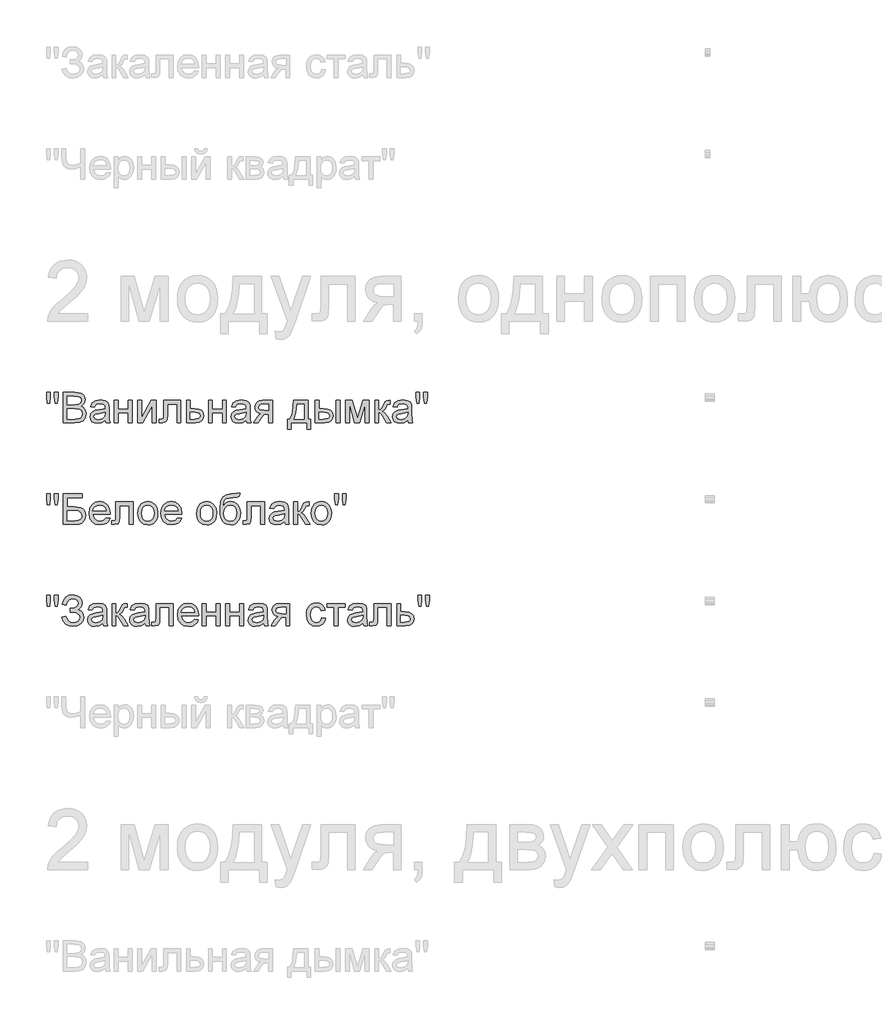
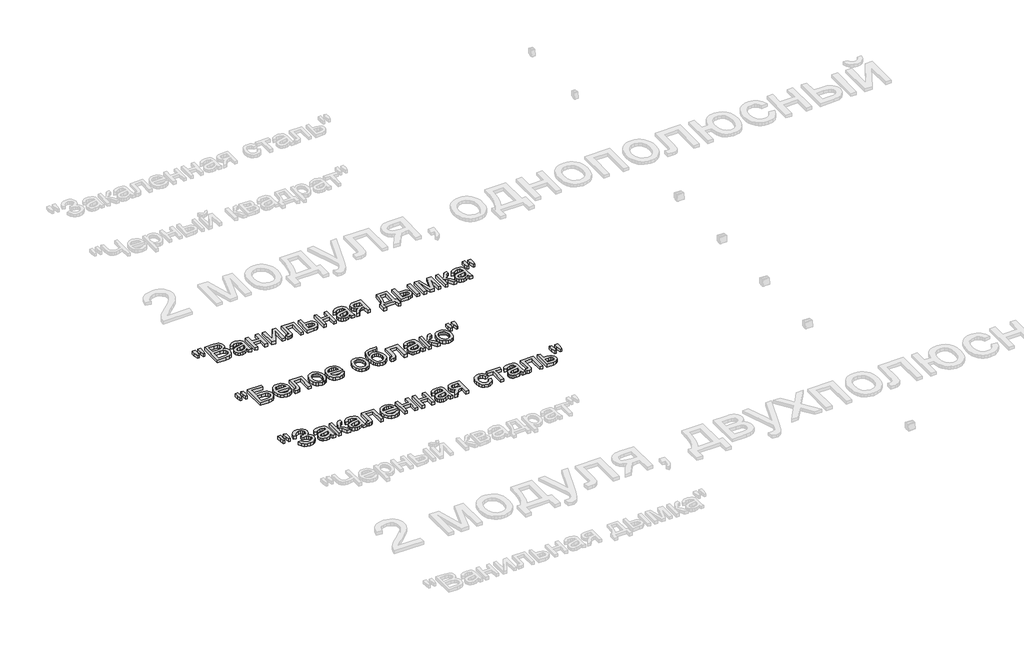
# One storey, part 17 of 168: 3 proxies.
"""IFC4 building model written with IfcOpenShell, lengths in millimetres."""

from ifc_helpers import new_model, si_unit, origin, origin_with_axes, place, context, project, spatial, polyline, outline, extrude, element, save

model = new_model("IFC4")

# Units and contexts
model_context = context("Model", 3, world=origin())
ifc_project = project(units=[si_unit("LENGTHUNIT", "METRE", prefix="MILLI")], contexts=[model_context])

# Site, building, storey
site = spatial("IfcSite", under=ifc_project)
building = spatial("IfcBuilding", under=site)
storey = spatial("IfcBuildingStorey", under=building, Name="Этаж 01", Elevation=0.0)

# Proxies
placement = place(None, origin())
element("IfcBuildingElementProxy", 1, Name="150", ObjectType="150", at=placement, inside=storey, context=model_context, shape_type="SweptSolid", body=[
    extrude(outline(polyline([(41980.1485789, -49764.0640488), (41975.550054, -49734.9645829), (41975.550054, -49709.9118191), (41994.3856121, -49709.9118191), (41994.3856121, -49734.9645829), (41990.2653338, -49764.0640488), (41980.1485789, -49764.0640488)])), origin_with_axes(), (0.0, 0.0, 1.0), 20.0),
    extrude(outline(polyline([(42017.7093306, -49764.0640488), (42013.2211703, -49734.9645829), (42013.2211703, -49709.9118191), (42032.0567284, -49709.9118191), (42032.0567284, -49734.9645829), (42027.6421445, -49764.0640488), (42017.7093306, -49764.0640488)])), origin_with_axes(), (0.0, 0.0, 1.0), 20.0),
    extrude(outline(polyline([(42057.9556209, -49860.5962843), (42057.9556209, -49709.9118191), (42115.4555767, -49709.9118191), (42143.6169435, -49714.3447971), (42153.0807078, -49719.9687931), (42160.2452096, -49727.974825), (42166.2600803, -49747.2518416), (42161.2017028, -49764.8549951), (42145.9162059, -49778.1907174), (42156.5893823, -49783.7641296), (42164.4758526, -49792.2438096), (42169.3456905, -49803.0687373), (42170.9689698, -49815.6778927), (42166.5359918, -49835.9297965), (42155.5547142, -49850.3507707), (42139.1655713, -49858.0027162), (42115.0141183, -49860.5962843), (42057.9556209, -49860.5962843)]), holes=[polyline([(42076.791179, -49771.1273831), (42111.1881456, -49771.1273831), (42131.2745025, -49769.5087023), (42143.3594261, -49762.5373385), (42147.4245221, -49750.2684739), (42143.6353376, -49737.9812153), (42132.7828187, -49730.7155459), (42108.5761834, -49728.7473772), (42076.791179, -49728.7473772), (42076.791179, -49771.1273831)]), polyline([(42076.791179, -49841.7607261), (42115.4187885, -49841.7607261), (42129.3983043, -49841.0249622), (42141.2257105, -49836.9230779), (42149.061597, -49828.5537625), (42152.1334117, -49815.8618337), (42148.5281681, -49801.2201303), (42136.8479148, -49792.4829329), (42113.5793786, -49789.9629412), (42076.791179, -49789.9629412), (42076.791179, -49841.7607261)])]), origin_with_axes(), (0.0, 0.0, 1.0), 20.0),
    extrude(outline(polyline([(42265.1467606, -49846.4696157), (42246.8814195, -49859.2351209), (42226.7030921, -49862.9507291), (42210.9623412, -49860.7158459), (42199.3510657, -49854.0111966), (42192.1911624, -49843.8300624), (42189.804528, -49831.1657247), (42193.4097715, -49816.2665039), (42202.8827329, -49805.4507732), (42216.0713024, -49799.2703557), (42232.3684748, -49796.4376643), (42265.036396, -49789.9629412), (42265.1467606, -49785.7690865), (42263.8499765, -49777.3629829), (42259.9596244, -49771.8631471), (42251.2592153, -49767.7796569), (42239.1375035, -49766.4184935), (42220.0812162, -49770.0421312), (42210.9945309, -49782.8996069), (42192.1589727, -49780.5451621), (42200.3075589, -49762.1510624), (42216.7150959, -49751.3721199), (42241.5655247, -49747.5829354), (42264.3926025, -49750.9306615), (42277.2868664, -49759.3367651), (42283.0626137, -49772.1206645), (42283.9823187, -49788.6017778), (42283.9823187, -49812.0358609), (42284.9388119, -49844.7589644), (42288.6912083, -49860.5962843), (42269.8556501, -49860.5962843), (42265.1467606, -49846.4696157)]), holes=[polyline([(42265.1467606, -49808.7984994), (42234.7597078, -49814.5742467), (42218.5545059, -49817.6276673), (42211.2152601, -49822.5940742), (42208.6400861, -49829.8413495), (42214.2502865, -49840.0316808), (42230.7130058, -49844.1151709), (42249.7692932, -49839.6086165), (42262.0565518, -49828.7009153), (42265.036396, -49814.1327883), (42265.1467606, -49808.7984994)])]), origin_with_axes(), (0.0, 0.0, 1.0), 20.0),
    extrude(outline(polyline([(42309.8812112, -49749.9373802), (42328.7167693, -49749.9373802), (42328.7167693, -49792.317386), (42378.1601095, -49792.317386), (42378.1601095, -49749.9373802), (42396.9956676, -49749.9373802), (42396.9956676, -49860.5962843), (42378.1601095, -49860.5962843), (42378.1601095, -49811.1529441), (42328.7167693, -49811.1529441), (42328.7167693, -49860.5962843), (42309.8812112, -49860.5962843), (42309.8812112, -49749.9373802)])), origin_with_axes(), (0.0, 0.0, 1.0), 20.0),
    extrude(outline(polyline([(42425.2490049, -49749.9373802), (42444.084563, -49749.9373802), (42444.084563, -49834.3295098), (42490.364118, -49749.9373802), (42514.7179061, -49749.9373802), (42514.7179061, -49860.5962843), (42495.8823479, -49860.5962843), (42495.8823479, -49776.7191894), (42449.8970985, -49860.5962843), (42425.2490049, -49860.5962843), (42425.2490049, -49749.9373802)])), origin_with_axes(), (0.0, 0.0, 1.0), 20.0),
    extrude(outline(polyline([(42552.3890224, -49749.9373802), (42637.1490341, -49749.9373802), (42637.1490341, -49860.4859197), (42618.3134759, -49860.4859197), (42618.3134759, -49768.7729383), (42571.2245806, -49768.7729383), (42571.2245806, -49821.5640046), (42569.9553877, -49845.9177927), (42562.9840239, -49856.2000945), (42546.5029105, -49860.5962843), (42531.1990195, -49859.6397911), (42531.1990195, -49841.7607261), (42539.6235172, -49841.7607261), (42548.1399854, -49840.6018979), (42551.5428938, -49836.9230779), (42552.3890224, -49820.4971468), (42552.3890224, -49749.9373802)])), origin_with_axes(), (0.0, 0.0, 1.0), 20.0),
    extrude(outline(polyline([(42665.4023713, -49749.9373802), (42684.2379295, -49749.9373802), (42684.2379295, -49789.9629412), (42705.9429672, -49789.9629412), (42724.7601312, -49792.3219845), (42738.6844648, -49799.3991144), (42747.2929034, -49810.6241138), (42750.162383, -49825.4267656), (42747.7205663, -49838.9050422), (42740.395116, -49850.2771943), (42727.6985887, -49858.0165118), (42709.1435405, -49860.5962843), (42665.4023713, -49860.5962843), (42665.4023713, -49749.9373802)]), holes=[polyline([(42684.2379295, -49841.7607261), (42701.8226888, -49841.7607261), (42724.539402, -49837.8059947), (42729.6299692, -49832.7430187), (42731.3268249, -49825.4635538), (42726.3052356, -49813.8752709), (42718.2348244, -49810.0676923), (42704.066769, -49808.7984994), (42684.2379295, -49808.7984994), (42684.2379295, -49841.7607261)])]), origin_with_axes(), (0.0, 0.0, 1.0), 20.0),
    extrude(outline(polyline([(42773.7068307, -49749.9373802), (42792.5423889, -49749.9373802), (42792.5423889, -49792.317386), (42841.985729, -49792.317386), (42841.985729, -49749.9373802), (42860.8212872, -49749.9373802), (42860.8212872, -49860.5962843), (42841.985729, -49860.5962843), (42841.985729, -49811.1529441), (42792.5423889, -49811.1529441), (42792.5423889, -49860.5962843), (42773.7068307, -49860.5962843), (42773.7068307, -49749.9373802)])), origin_with_axes(), (0.0, 0.0, 1.0), 20.0),
    extrude(outline(polyline([(42959.7079675, -49846.4696157), (42941.4426264, -49859.2351209), (42921.264299, -49862.9507291), (42905.5235481, -49860.7158459), (42893.9122726, -49854.0111966), (42886.7523693, -49843.8300624), (42884.3657349, -49831.1657247), (42887.9709784, -49816.2665039), (42897.4439398, -49805.4507732), (42910.6325093, -49799.2703557), (42926.9296817, -49796.4376643), (42959.5976029, -49789.9629412), (42959.7079675, -49785.7690865), (42958.4111834, -49777.3629829), (42954.5208313, -49771.8631471), (42945.8204221, -49767.7796569), (42933.6987104, -49766.4184935), (42914.6424231, -49770.0421312), (42905.5557378, -49782.8996069), (42886.7201796, -49780.5451621), (42894.8687658, -49762.1510624), (42911.2763028, -49751.3721199), (42936.1267316, -49747.5829354), (42958.9538094, -49750.9306615), (42971.8480733, -49759.3367651), (42977.6238206, -49772.1206645), (42978.5435256, -49788.6017778), (42978.5435256, -49812.0358609), (42979.5000188, -49844.7589644), (42983.2524152, -49860.5962843), (42964.416857, -49860.5962843), (42959.7079675, -49846.4696157)]), holes=[polyline([(42959.7079675, -49808.7984994), (42929.3209147, -49814.5742467), (42913.1157128, -49817.6276673), (42905.776467, -49822.5940742), (42903.201293, -49829.8413495), (42908.8114934, -49840.0316808), (42925.2742127, -49844.1151709), (42944.3305001, -49839.6086165), (42956.6177587, -49828.7009153), (42959.5976029, -49814.1327883), (42959.7079675, -49808.7984994)])]), origin_with_axes(), (0.0, 0.0, 1.0), 20.0),
    extrude(outline(polyline([(43089.2024298, -49749.9373802), (43089.2024298, -49860.5962843), (43070.3668716, -49860.5962843), (43070.3668716, -49818.2162785), (43060.1029639, -49818.2162785), (43046.1234481, -49820.6075114), (43032.9900609, -49836.6839546), (43017.9804755, -49860.5962843), (42996.2018614, -49860.5962843), (43015.1109959, -49830.3563843), (43023.4619172, -49819.5038654), (43031.1506509, -49814.6846113), (43018.2747811, -49810.7390769), (43009.224884, -49803.2434813), (43003.872201, -49793.2738792), (43002.0879733, -49781.9063255), (43004.5251915, -49769.0120616), (43011.8368462, -49758.8033362), (43023.7654199, -49752.1538692), (43040.0533952, -49749.9373802), (43089.2024298, -49749.9373802)]), holes=[polyline([(43070.3668716, -49768.7729383), (43045.5348369, -49768.7729383), (43032.7095509, -49769.8627887), (43025.4300859, -49773.1323399), (43020.9235315, -49783.3410653), (43022.583599, -49790.5193627), (43027.5638015, -49795.4995653), (43051.0898551, -49799.3807203), (43070.3668716, -49799.3807203), (43070.3668716, -49768.7729383)])]), origin_with_axes(), (0.0, 0.0, 1.0), 20.0),
    extrude(outline(polyline([(43192.7979996, -49749.9373802), (43263.4313427, -49749.9373802), (43263.4313427, -49841.7607261), (43277.5580113, -49841.7607261), (43277.5580113, -49891.2040663), (43258.7224531, -49891.2040663), (43258.7224531, -49860.5962843), (43181.0257758, -49860.5962843), (43181.0257758, -49891.2040663), (43162.1902176, -49891.2040663), (43162.1902176, -49841.7607261), (43173.9624415, -49841.7607261), (43182.5202964, -49826.2958868), (43188.5121744, -49805.8370493), (43192.7979996, -49749.9373802)]), holes=[polyline([(43209.279113, -49768.7729383), (43204.864529, -49811.686373), (43195.1524444, -49841.7607261), (43244.5957845, -49841.7607261), (43244.5957845, -49768.7729383), (43209.279113, -49768.7729383)])]), origin_with_axes(), (0.0, 0.0, 1.0), 20.0),
    extrude(outline(polyline([(43402.3435841, -49749.9373802), (43421.1791422, -49749.9373802), (43421.1791422, -49860.5962843), (43402.3435841, -49860.5962843), (43402.3435841, -49749.9373802)])), origin_with_axes(), (0.0, 0.0, 1.0), 20.0),
    extrude(outline(polyline([(43298.7480142, -49749.9373802), (43317.5835724, -49749.9373802), (43317.5835724, -49789.9629412), (43340.8705027, -49789.9629412), (43360.9982463, -49792.3219845), (43375.9112627, -49799.3991144), (43385.1405023, -49810.6241138), (43388.2169154, -49825.4267656), (43385.637143, -49838.9050422), (43377.8978255, -49850.2771943), (43364.4931253, -49858.0165118), (43344.9172046, -49860.5962843), (43298.7480142, -49860.5962843), (43298.7480142, -49749.9373802)]), holes=[polyline([(43317.5835724, -49841.7607261), (43336.9341653, -49841.7607261), (43361.9133528, -49837.8059947), (43367.5143562, -49832.7430187), (43369.3813573, -49825.4635538), (43363.8447333, -49813.8752709), (43354.9649816, -49810.0676923), (43339.3989747, -49808.7984994), (43317.5835724, -49808.7984994), (43317.5835724, -49841.7607261)])]), origin_with_axes(), (0.0, 0.0, 1.0), 20.0),
    extrude(outline(polyline([(43449.4324794, -49749.9373802), (43481.8428832, -49749.9373802), (43506.8220707, -49838.5233646), (43533.7510327, -49749.9373802), (43564.8002731, -49749.9373802), (43564.8002731, -49860.5962843), (43545.964715, -49860.5962843), (43545.964715, -49771.4952651), (43518.8886001, -49860.5962843), (43494.1669301, -49860.5962843), (43468.2680376, -49767.2278339), (43468.2680376, -49860.5962843), (43449.4324794, -49860.5962843), (43449.4324794, -49749.9373802)])), origin_with_axes(), (0.0, 0.0, 1.0), 20.0),
    extrude(outline(polyline([(43593.0536104, -49749.9373802), (43611.8891685, -49749.9373802), (43611.8891685, -49797.0262755), (43624.5075209, -49793.6417612), (43634.845005, -49773.9232862), (43643.4350496, -49756.908744), (43651.0134187, -49751.3721199), (43664.7905994, -49749.9373802), (43668.395843, -49749.9373802), (43668.395843, -49768.8833029), (43663.3190714, -49768.7729383), (43654.1220216, -49770.7595011), (43647.6472984, -49783.1571243), (43640.0505352, -49796.566423), (43629.4003515, -49803.1331167), (43641.2829399, -49810.4631654), (43652.9447992, -49825.9050122), (43673.1047325, -49860.5962843), (43651.6940004, -49860.5962843), (43631.9387372, -49826.6407761), (43622.0059234, -49812.2749842), (43611.8891685, -49808.7984994), (43611.8891685, -49860.5962843), (43593.0536104, -49860.5962843), (43593.0536104, -49749.9373802)])), origin_with_axes(), (0.0, 0.0, 1.0), 20.0),
    extrude(outline(polyline([(43755.5102994, -49846.4696157), (43737.2449584, -49859.2351209), (43717.0666309, -49862.9507291), (43701.3258801, -49860.7158459), (43689.7146046, -49854.0111966), (43682.5547013, -49843.8300624), (43680.1680668, -49831.1657247), (43683.7733104, -49816.2665039), (43693.2462717, -49805.4507732), (43706.4348413, -49799.2703557), (43722.7320137, -49796.4376643), (43755.3999348, -49789.9629412), (43755.5102994, -49785.7690865), (43754.2135154, -49777.3629829), (43750.3231633, -49771.8631471), (43741.6227541, -49767.7796569), (43729.5010424, -49766.4184935), (43710.444755, -49770.0421312), (43701.3580697, -49782.8996069), (43682.5225116, -49780.5451621), (43690.6710978, -49762.1510624), (43707.0786348, -49751.3721199), (43731.9290635, -49747.5829354), (43754.7561413, -49750.9306615), (43767.6504053, -49759.3367651), (43773.4261526, -49772.1206645), (43774.3458576, -49788.6017778), (43774.3458576, -49812.0358609), (43775.3023508, -49844.7589644), (43779.0547471, -49860.5962843), (43760.219189, -49860.5962843), (43755.5102994, -49846.4696157)]), holes=[polyline([(43755.5102994, -49808.7984994), (43725.1232466, -49814.5742467), (43708.9180447, -49817.6276673), (43701.5787989, -49822.5940742), (43699.003625, -49829.8413495), (43704.6138254, -49840.0316808), (43721.0765447, -49844.1151709), (43740.132832, -49839.6086165), (43752.4200907, -49828.7009153), (43755.3999348, -49814.1327883), (43755.5102994, -49808.7984994)])]), origin_with_axes(), (0.0, 0.0, 1.0), 20.0),
    extrude(outline(polyline([(43800.1343854, -49764.0640488), (43795.5358605, -49734.9645829), (43795.5358605, -49709.9118191), (43814.3714187, -49709.9118191), (43814.3714187, -49734.9645829), (43810.2511403, -49764.0640488), (43800.1343854, -49764.0640488)])), origin_with_axes(), (0.0, 0.0, 1.0), 20.0),
    extrude(outline(polyline([(43837.6951372, -49764.0640488), (43833.2069768, -49734.9645829), (43833.2069768, -49709.9118191), (43852.042535, -49709.9118191), (43852.042535, -49734.9645829), (43847.627951, -49764.0640488), (43837.6951372, -49764.0640488)])), origin_with_axes(), (0.0, 0.0, 1.0), 20.0),
])
element("IfcBuildingElementProxy", 2, Name="150", ObjectType="150", at=placement, inside=storey, context=model_context, shape_type="SweptSolid", body=[
    extrude(outline(polyline([(41980.1485789, -50264.0640488), (41975.550054, -50234.9645829), (41975.550054, -50209.9118191), (41994.3856121, -50209.9118191), (41994.3856121, -50234.9645829), (41990.2653338, -50264.0640488), (41980.1485789, -50264.0640488)])), origin_with_axes(), (0.0, 0.0, 1.0), 20.0),
    extrude(outline(polyline([(42017.7093306, -50264.0640488), (42013.2211703, -50234.9645829), (42013.2211703, -50209.9118191), (42032.0567284, -50209.9118191), (42032.0567284, -50234.9645829), (42027.6421445, -50264.0640488), (42017.7093306, -50264.0640488)])), origin_with_axes(), (0.0, 0.0, 1.0), 20.0),
    extrude(outline(polyline([(42057.9556209, -50209.9118191), (42152.1334117, -50209.9118191), (42152.1334117, -50228.7473772), (42076.791179, -50228.7473772), (42076.791179, -50273.4818278), (42112.0710624, -50273.4818278), (42143.157091, -50277.3078006), (42153.5589544, -50282.8352276), (42161.6615553, -50291.765563), (42166.8762826, -50303.2618754), (42168.614525, -50316.4872331), (42163.6665122, -50337.9531475), (42148.8960501, -50354.268714), (42135.6247071, -50359.0143917), (42115.4555767, -50360.5962843), (42057.9556209, -50360.5962843), (42057.9556209, -50209.9118191)]), holes=[polyline([(42076.791179, -50341.7607261), (42117.1478339, -50341.7607261), (42131.4124583, -50340.2064247), (42141.6119866, -50335.5435204), (42147.7372218, -50327.7720133), (42149.7789669, -50316.8919033), (42145.1068655, -50302.1398353), (42132.102237, -50294.2671606), (42103.7201411, -50292.317386), (42076.791179, -50292.317386), (42076.791179, -50341.7607261)])]), origin_with_axes(), (0.0, 0.0, 1.0), 20.0),
    extrude(outline(polyline([(42269.6349209, -50327.6340575), (42288.1025971, -50329.9885023), (42281.4485315, -50343.9036388), (42270.8305374, -50354.3055022), (42256.4877381, -50360.7894223), (42238.6592569, -50362.9507291), (42216.5587461, -50359.2213253), (42199.5534008, -50348.0331142), (42188.710079, -50330.1126625), (42185.0956384, -50306.1865372), (42188.7468672, -50281.4556701), (42199.7005536, -50262.9604028), (42216.4759726, -50251.4273022), (42237.5923991, -50247.5829354), (42258.0512366, -50251.4181052), (42274.3989927, -50262.9236146), (42285.1181544, -50281.3820937), (42288.6912083, -50306.0761726), (42288.5808437, -50311.1529441), (42203.9311966, -50311.1529441), (42207.1915508, -50325.2520216), (42214.7653213, -50335.6170968), (42225.6960151, -50341.9906524), (42239.0271389, -50344.1151709), (42257.4948151, -50340.1788336), (42269.6349209, -50327.6340575)]), holes=[polyline([(42203.9311966, -50292.317386), (42269.8556501, -50292.317386), (42267.3080673, -50282.366178), (42262.3140692, -50275.2476614), (42251.3327917, -50268.6257855), (42237.5188227, -50266.4184935), (42224.8222954, -50268.1797286), (42214.3238629, -50273.4634337), (42207.0260039, -50281.6993919), (42203.9311966, -50292.317386)])]), origin_with_axes(), (0.0, 0.0, 1.0), 20.0),
    extrude(outline(polyline([(42316.9445455, -50249.9373802), (42401.7045572, -50249.9373802), (42401.7045572, -50360.4859197), (42382.868999, -50360.4859197), (42382.868999, -50268.7729383), (42335.7801036, -50268.7729383), (42335.7801036, -50321.5640046), (42334.5109108, -50345.9177927), (42327.539547, -50356.2000945), (42311.0584336, -50360.5962843), (42295.7545426, -50359.6397911), (42295.7545426, -50341.7607261), (42304.1790403, -50341.7607261), (42312.6955084, -50340.6018979), (42316.0984169, -50336.9230779), (42316.9445455, -50320.4971468), (42316.9445455, -50249.9373802)])), origin_with_axes(), (0.0, 0.0, 1.0), 20.0),
    extrude(outline(polyline([(42425.2490049, -50305.2668322), (42429.323298, -50278.5861905), (42441.5461773, -50259.8334058), (42456.6477332, -50250.645553), (42474.7291332, -50247.5829354), (42494.516586, -50251.3123391), (42510.3217163, -50262.5005503), (42520.6821929, -50280.2646521), (42524.1356852, -50303.7217278), (42522.6089749, -50322.750424), (42518.0288441, -50337.2357776), (42510.5286499, -50348.0836979), (42500.2417496, -50356.2000945), (42488.0234688, -50361.2630704), (42474.7291332, -50362.9507291), (42454.7025571, -50359.2351209), (42438.915821, -50348.0882965), (42428.6657089, -50329.9517141), (42425.2490049, -50305.2668322)]), holes=[polyline([(42444.084563, -50305.230044), (42446.2642638, -50322.276776), (42452.8033663, -50334.4214803), (42462.6442097, -50341.6917483), (42474.7291332, -50344.1151709), (42486.7588745, -50341.6779527), (42496.5813237, -50334.366298), (42503.1204262, -50322.0606453), (42505.300127, -50304.6414328), (42503.1066306, -50288.0913416), (42496.5261414, -50276.1121841), (42486.6898966, -50268.8419162), (42474.7291332, -50266.4184935), (42462.6442097, -50268.8327191), (42452.8033663, -50276.0753959), (42446.2642638, -50288.1925091), (42444.084563, -50305.230044)])]), origin_with_axes(), (0.0, 0.0, 1.0), 20.0),
    extrude(outline(polyline([(42622.8016363, -50327.6340575), (42641.2693124, -50329.9885023), (42634.6152469, -50343.9036388), (42623.9972528, -50354.3055022), (42609.6544535, -50360.7894223), (42591.8259723, -50362.9507291), (42569.7254614, -50359.2213253), (42552.7201162, -50348.0331142), (42541.8767944, -50330.1126625), (42538.2623538, -50306.1865372), (42541.9135826, -50281.4556701), (42552.867269, -50262.9604028), (42569.642688, -50251.4273022), (42590.7591145, -50247.5829354), (42611.217952, -50251.4181052), (42627.5657081, -50262.9236146), (42638.2848698, -50281.3820937), (42641.8579236, -50306.0761726), (42641.747559, -50311.1529441), (42557.0979119, -50311.1529441), (42560.3582661, -50325.2520216), (42567.9320367, -50335.6170968), (42578.8627305, -50341.9906524), (42592.1938543, -50344.1151709), (42610.6615304, -50340.1788336), (42622.8016363, -50327.6340575)]), holes=[polyline([(42557.0979119, -50292.317386), (42623.0223655, -50292.317386), (42620.4747827, -50282.366178), (42615.4807846, -50275.2476614), (42604.499507, -50268.6257855), (42590.6855381, -50266.4184935), (42577.9890107, -50268.1797286), (42567.4905783, -50273.4634337), (42560.1927192, -50281.6993919), (42557.0979119, -50292.317386)])]), origin_with_axes(), (0.0, 0.0, 1.0), 20.0),
    extrude(outline(polyline([(42714.8457115, -50305.2668322), (42718.9200046, -50278.5861905), (42731.1428839, -50259.8334058), (42746.2444398, -50250.645553), (42764.3258398, -50247.5829354), (42784.1132926, -50251.3123391), (42799.9184229, -50262.5005503), (42810.2788995, -50280.2646521), (42813.7323918, -50303.7217278), (42812.2056815, -50322.750424), (42807.6255507, -50337.2357776), (42800.1253565, -50348.0836979), (42789.8384562, -50356.2000945), (42777.6201754, -50361.2630704), (42764.3258398, -50362.9507291), (42744.2992637, -50359.2351209), (42728.5125276, -50348.0882965), (42718.2624155, -50329.9517141), (42714.8457115, -50305.2668322)]), holes=[polyline([(42733.6812696, -50305.230044), (42735.8609704, -50322.276776), (42742.4000729, -50334.4214803), (42752.2409163, -50341.6917483), (42764.3258398, -50344.1151709), (42776.3555811, -50341.6779527), (42786.1780303, -50334.366298), (42792.7171328, -50322.0606453), (42794.8968336, -50304.6414328), (42792.7033372, -50288.0913416), (42786.122848, -50276.1121841), (42776.2866032, -50268.8419162), (42764.3258398, -50266.4184935), (42752.2409163, -50268.8327191), (42742.4000729, -50276.0753959), (42735.8609704, -50288.1925091), (42733.6812696, -50305.230044)])]), origin_with_axes(), (0.0, 0.0, 1.0), 20.0),
    extrude(outline(polyline([(42912.6190721, -50207.5573743), (42929.1001855, -50207.5573743), (42924.2441431, -50222.25426), (42914.6424231, -50227.5701548), (42891.576222, -50228.7473772), (42860.5085875, -50233.0883848), (42853.3808738, -50238.7353734), (42848.5892108, -50246.9943242), (42844.560903, -50271.6056297), (42860.8764695, -50253.5794119), (42870.7954878, -50249.0820545), (42881.9009255, -50247.5829354), (42901.4998388, -50251.3951126), (42917.401538, -50262.8316441), (42927.9413572, -50280.7704899), (42931.4546302, -50304.0896098), (42929.7117893, -50322.0698424), (42924.4832664, -50336.5000136), (42907.9469707, -50356.0529417), (42896.6529935, -50361.2262822), (42881.9009255, -50362.9507291), (42864.9001788, -50360.7296415), (42852.1576662, -50354.0663789), (42842.7812738, -50343.940427), (42835.8788879, -50331.3312716), (42831.6298508, -50312.3439621), (42830.2135052, -50283.0835479), (42833.786559, -50246.9437404), (42844.5057207, -50224.9030104), (42862.6377045, -50213.6596169), (42888.449225, -50209.9118191), (42909.4184987, -50209.4887548), (42912.6190721, -50207.5573743)]), holes=[polyline([(42912.6190721, -50303.5009986), (42910.577327, -50288.6799528), (42904.4520918, -50276.8111599), (42894.6112484, -50269.0166601), (42881.4226789, -50266.4184935), (42867.6730893, -50269.1638129), (42857.473561, -50277.3997711), (42851.1551877, -50290.2250571), (42849.0490633, -50306.7383602), (42851.3759169, -50322.7458255), (42858.3564778, -50334.4950567), (42868.7491442, -50341.7101424), (42881.3123143, -50344.1151709), (42893.9398638, -50341.3330633), (42903.937057, -50332.9867406), (42910.4485683, -50320.0510899), (42912.6190721, -50303.5009986)])]), origin_with_axes(), (0.0, 0.0, 1.0), 20.0),
    extrude(outline(polyline([(42964.416857, -50249.9373802), (43049.1768687, -50249.9373802), (43049.1768687, -50360.4859197), (43030.3413105, -50360.4859197), (43030.3413105, -50268.7729383), (42983.2524152, -50268.7729383), (42983.2524152, -50321.5640046), (42981.9832223, -50345.9177927), (42975.0118585, -50356.2000945), (42958.5307451, -50360.5962843), (42943.2268541, -50359.6397911), (42943.2268541, -50341.7607261), (42951.6513518, -50341.7607261), (42960.16782, -50340.6018979), (42963.5707284, -50336.9230779), (42964.416857, -50320.4971468), (42964.416857, -50249.9373802)])), origin_with_axes(), (0.0, 0.0, 1.0), 20.0),
    extrude(outline(polyline([(43148.063549, -50346.4696157), (43129.7982079, -50359.2351209), (43109.6198805, -50362.9507291), (43093.8791296, -50360.7158459), (43082.2678542, -50354.0111966), (43075.1079508, -50343.8300624), (43072.7213164, -50331.1657247), (43076.3265599, -50316.2665039), (43085.7995213, -50305.4507732), (43098.9880908, -50299.2703557), (43115.2852632, -50296.4376643), (43147.9531844, -50289.9629412), (43148.063549, -50285.7690865), (43146.766765, -50277.3629829), (43142.8764129, -50271.8631471), (43134.1760037, -50267.7796569), (43122.0542919, -50266.4184935), (43102.9980046, -50270.0421312), (43093.9113193, -50282.8996069), (43075.0757612, -50280.5451621), (43083.2243473, -50262.1510624), (43099.6318843, -50251.3721199), (43124.4823131, -50247.5829354), (43147.3093909, -50250.9306615), (43160.2036548, -50259.3367651), (43165.9794022, -50272.1206645), (43166.8991071, -50288.6017778), (43166.8991071, -50312.0358609), (43167.8556003, -50344.7589644), (43171.6079967, -50360.5962843), (43152.7724385, -50360.5962843), (43148.063549, -50346.4696157)]), holes=[polyline([(43148.063549, -50308.7984994), (43117.6764962, -50314.5742467), (43101.4712943, -50317.6276673), (43094.1320485, -50322.5940742), (43091.5568745, -50329.8413495), (43097.167075, -50340.0316808), (43113.6297942, -50344.1151709), (43132.6860816, -50339.6086165), (43144.9733402, -50328.7009153), (43147.9531844, -50314.1327883), (43148.063549, -50308.7984994)])]), origin_with_axes(), (0.0, 0.0, 1.0), 20.0),
    extrude(outline(polyline([(43192.7979996, -50249.9373802), (43211.6335578, -50249.9373802), (43211.6335578, -50297.0262755), (43224.2519102, -50293.6417612), (43234.5893943, -50273.9232862), (43243.1794388, -50256.908744), (43250.7578079, -50251.3721199), (43264.5349887, -50249.9373802), (43268.1402322, -50249.9373802), (43268.1402322, -50268.8833029), (43263.0634607, -50268.7729383), (43253.8664108, -50270.7595011), (43247.3916877, -50283.1571243), (43239.7949245, -50296.566423), (43229.1447407, -50303.1331167), (43241.0273292, -50310.4631654), (43252.6891884, -50325.9050122), (43272.8491218, -50360.5962843), (43251.4383896, -50360.5962843), (43231.6831265, -50326.6407761), (43221.7503126, -50312.2749842), (43211.6335578, -50308.7984994), (43211.6335578, -50360.5962843), (43192.7979996, -50360.5962843), (43192.7979996, -50249.9373802)])), origin_with_axes(), (0.0, 0.0, 1.0), 20.0),
    extrude(outline(polyline([(43279.9124561, -50305.2668322), (43283.9867492, -50278.5861905), (43296.2096285, -50259.8334058), (43311.3111844, -50250.645553), (43329.3925844, -50247.5829354), (43349.1800372, -50251.3123391), (43364.9851674, -50262.5005503), (43375.3456441, -50280.2646521), (43378.7991364, -50303.7217278), (43377.2724261, -50322.750424), (43372.6922952, -50337.2357776), (43365.1921011, -50348.0836979), (43354.9052008, -50356.2000945), (43342.68692, -50361.2630704), (43329.3925844, -50362.9507291), (43309.3660083, -50359.2351209), (43293.5792722, -50348.0882965), (43283.3291601, -50329.9517141), (43279.9124561, -50305.2668322)]), holes=[polyline([(43298.7480142, -50305.230044), (43300.927715, -50322.276776), (43307.4668175, -50334.4214803), (43317.3076609, -50341.6917483), (43329.3925844, -50344.1151709), (43341.4223257, -50341.6779527), (43351.2447749, -50334.366298), (43357.7838774, -50322.0606453), (43359.9635782, -50304.6414328), (43357.7700818, -50288.0913416), (43351.1895926, -50276.1121841), (43341.3533478, -50268.8419162), (43329.3925844, -50266.4184935), (43317.3076609, -50268.8327191), (43307.4668175, -50276.0753959), (43300.927715, -50288.1925091), (43298.7480142, -50305.230044)])]), origin_with_axes(), (0.0, 0.0, 1.0), 20.0),
    extrude(outline(polyline([(43399.8787747, -50264.0640488), (43395.2802498, -50234.9645829), (43395.2802498, -50209.9118191), (43414.1158079, -50209.9118191), (43414.1158079, -50234.9645829), (43409.9955296, -50264.0640488), (43399.8787747, -50264.0640488)])), origin_with_axes(), (0.0, 0.0, 1.0), 20.0),
    extrude(outline(polyline([(43437.4395264, -50264.0640488), (43432.9513661, -50234.9645829), (43432.9513661, -50209.9118191), (43451.7869242, -50209.9118191), (43451.7869242, -50234.9645829), (43447.3723403, -50264.0640488), (43437.4395264, -50264.0640488)])), origin_with_axes(), (0.0, 0.0, 1.0), 20.0),
])
element("IfcBuildingElementProxy", 3, Name="150", ObjectType="150", at=placement, inside=storey, context=model_context, shape_type="SweptSolid", body=[
    extrude(outline(polyline([(41980.1485789, -50764.0640488), (41975.550054, -50734.9645829), (41975.550054, -50709.9118191), (41994.3856121, -50709.9118191), (41994.3856121, -50734.9645829), (41990.2653338, -50764.0640488), (41980.1485789, -50764.0640488)])), origin_with_axes(), (0.0, 0.0, 1.0), 20.0),
    extrude(outline(polyline([(42017.7093306, -50764.0640488), (42013.2211703, -50734.9645829), (42013.2211703, -50709.9118191), (42032.0567284, -50709.9118191), (42032.0567284, -50734.9645829), (42027.6421445, -50764.0640488), (42017.7093306, -50764.0640488)])), origin_with_axes(), (0.0, 0.0, 1.0), 20.0),
    extrude(outline(polyline([(42050.8922866, -50818.2162785), (42069.7278447, -50813.5073889), (42081.2977335, -50833.9064456), (42092.2284273, -50841.5629896), (42106.2217387, -50844.1151709), (42120.398991, -50842.197586), (42131.2193202, -50836.4448313), (42138.0757209, -50827.9789469), (42140.3611878, -50817.9219729), (42137.8641888, -50807.3867522), (42130.3731916, -50799.2519616), (42118.5779752, -50794.0510299), (42103.1683181, -50792.317386), (42093.2722924, -50792.317386), (42093.2722924, -50773.4818278), (42114.591054, -50771.9551176), (42127.6324708, -50764.1560193), (42133.2978535, -50749.900592), (42131.4124583, -50741.0300373), (42125.7562726, -50733.4010845), (42116.8811195, -50728.1449705), (42105.3388219, -50726.3929325), (42086.1169876, -50731.7824037), (42075.117316, -50746.0746192), (42072.0822895, -50759.3551592), (42053.2467313, -50754.6462697), (42059.0983543, -50734.044878), (42069.7002536, -50719.3295982), (42085.0524291, -50710.5004303), (42105.1548809, -50707.5573743), (42124.5468605, -50710.6153934), (42139.4598769, -50719.7894506), (42148.965028, -50733.0561951), (42152.1334117, -50748.3922758), (42147.2037929, -50767.0346959), (42132.4149367, -50780.9498323), (42142.8903765, -50785.773685), (42151.5080123, -50793.9176727), (42157.2745625, -50804.6828196), (42159.196746, -50817.3701499), (42155.508729, -50835.2078281), (42144.444678, -50849.8725241), (42127.2921799, -50859.6811778), (42105.3388219, -50862.9507291), (42086.2365493, -50860.1548259), (42070.7947025, -50851.7671164), (42059.0132816, -50837.7876006), (42050.8922866, -50818.2162785)])), origin_with_axes(), (0.0, 0.0, 1.0), 20.0),
    extrude(outline(polyline([(42253.3745367, -50846.4696157), (42235.1091957, -50859.2351209), (42214.9308682, -50862.9507291), (42199.1901174, -50860.7158459), (42187.5788419, -50854.0111966), (42180.4189386, -50843.8300624), (42178.0323041, -50831.1657247), (42181.6375477, -50816.2665039), (42191.110509, -50805.4507732), (42204.2990786, -50799.2703557), (42220.596251, -50796.4376643), (42253.2641721, -50789.9629412), (42253.3745367, -50785.7690865), (42252.0777527, -50777.3629829), (42248.1874006, -50771.8631471), (42239.4869914, -50767.7796569), (42227.3652797, -50766.4184935), (42208.3089923, -50770.0421312), (42199.222307, -50782.8996069), (42180.3867489, -50780.5451621), (42188.5353351, -50762.1510624), (42204.9428721, -50751.3721199), (42229.7933008, -50747.5829354), (42252.6203786, -50750.9306615), (42265.5146426, -50759.3367651), (42271.2903899, -50772.1206645), (42272.2100949, -50788.6017778), (42272.2100949, -50812.0358609), (42273.1665881, -50844.7589644), (42276.9189844, -50860.5962843), (42258.0834263, -50860.5962843), (42253.3745367, -50846.4696157)]), holes=[polyline([(42253.3745367, -50808.7984994), (42222.9874839, -50814.5742467), (42206.782282, -50817.6276673), (42199.4430362, -50822.5940742), (42196.8678623, -50829.8413495), (42202.4780627, -50840.0316808), (42218.940782, -50844.1151709), (42237.9970693, -50839.6086165), (42250.284328, -50828.7009153), (42253.2641721, -50814.1327883), (42253.3745367, -50808.7984994)])]), origin_with_axes(), (0.0, 0.0, 1.0), 20.0),
    extrude(outline(polyline([(42298.1089873, -50749.9373802), (42316.9445455, -50749.9373802), (42316.9445455, -50797.0262755), (42329.5628979, -50793.6417612), (42339.900382, -50773.9232862), (42348.4904266, -50756.908744), (42356.0687957, -50751.3721199), (42369.8459764, -50749.9373802), (42373.4512199, -50749.9373802), (42373.4512199, -50768.8833029), (42368.3744484, -50768.7729383), (42359.1773985, -50770.7595011), (42352.7026754, -50783.1571243), (42345.1059122, -50796.566423), (42334.4557285, -50803.1331167), (42346.3383169, -50810.4631654), (42358.0001762, -50825.9050122), (42378.1601095, -50860.5962843), (42356.7493774, -50860.5962843), (42336.9941142, -50826.6407761), (42327.0613004, -50812.2749842), (42316.9445455, -50808.7984994), (42316.9445455, -50860.5962843), (42298.1089873, -50860.5962843), (42298.1089873, -50749.9373802)])), origin_with_axes(), (0.0, 0.0, 1.0), 20.0),
    extrude(outline(polyline([(42460.5656764, -50846.4696157), (42442.3003353, -50859.2351209), (42422.1220079, -50862.9507291), (42406.381257, -50860.7158459), (42394.7699816, -50854.0111966), (42387.6100782, -50843.8300624), (42385.2234438, -50831.1657247), (42388.8286873, -50816.2665039), (42398.3016487, -50805.4507732), (42411.4902183, -50799.2703557), (42427.7873906, -50796.4376643), (42460.4553118, -50789.9629412), (42460.5656764, -50785.7690865), (42459.2688924, -50777.3629829), (42455.3785403, -50771.8631471), (42446.6781311, -50767.7796569), (42434.5564193, -50766.4184935), (42415.500132, -50770.0421312), (42406.4134467, -50782.8996069), (42387.5778886, -50780.5451621), (42395.7264748, -50762.1510624), (42412.1340117, -50751.3721199), (42436.9844405, -50747.5829354), (42459.8115183, -50750.9306615), (42472.7057822, -50759.3367651), (42478.4815296, -50772.1206645), (42479.4012346, -50788.6017778), (42479.4012346, -50812.0358609), (42480.3577277, -50844.7589644), (42484.1101241, -50860.5962843), (42465.2745659, -50860.5962843), (42460.5656764, -50846.4696157)]), holes=[polyline([(42460.5656764, -50808.7984994), (42430.1786236, -50814.5742467), (42413.9734217, -50817.6276673), (42406.6341759, -50822.5940742), (42404.0590019, -50829.8413495), (42409.6692024, -50840.0316808), (42426.1319217, -50844.1151709), (42445.188209, -50839.6086165), (42457.4754676, -50828.7009153), (42460.4553118, -50814.1327883), (42460.5656764, -50808.7984994)])]), origin_with_axes(), (0.0, 0.0, 1.0), 20.0),
    extrude(outline(polyline([(42514.7179061, -50749.9373802), (42599.4779178, -50749.9373802), (42599.4779178, -50860.4859197), (42580.6423596, -50860.4859197), (42580.6423596, -50768.7729383), (42533.5534643, -50768.7729383), (42533.5534643, -50821.5640046), (42532.2842714, -50845.9177927), (42525.3129076, -50856.2000945), (42508.8317942, -50860.5962843), (42493.5279032, -50859.6397911), (42493.5279032, -50841.7607261), (42501.9524009, -50841.7607261), (42510.4688691, -50840.6018979), (42513.8717775, -50836.9230779), (42514.7179061, -50820.4971468), (42514.7179061, -50749.9373802)])), origin_with_axes(), (0.0, 0.0, 1.0), 20.0),
    extrude(outline(polyline([(42705.2072032, -50827.6340575), (42723.6748794, -50829.9885023), (42717.0208138, -50843.9036388), (42706.4028197, -50854.3055022), (42692.0600204, -50860.7894223), (42674.2315392, -50862.9507291), (42652.1310283, -50859.2213253), (42635.1256831, -50848.0331142), (42624.2823613, -50830.1126625), (42620.6679207, -50806.1865372), (42624.3191495, -50781.4556701), (42635.2728359, -50762.9604028), (42652.0482549, -50751.4273022), (42673.1646814, -50747.5829354), (42693.6235189, -50751.4181052), (42709.971275, -50762.9236146), (42720.6904367, -50781.3820937), (42724.2634906, -50806.0761726), (42724.153126, -50811.1529441), (42639.5034789, -50811.1529441), (42642.763833, -50825.2520216), (42650.3376036, -50835.6170968), (42661.2682974, -50841.9906524), (42674.5994212, -50844.1151709), (42693.0670974, -50840.1788336), (42705.2072032, -50827.6340575)]), holes=[polyline([(42639.5034789, -50792.317386), (42705.4279324, -50792.317386), (42702.8803496, -50782.366178), (42697.8863515, -50775.2476614), (42686.9050739, -50768.6257855), (42673.091105, -50766.4184935), (42660.3945777, -50768.1797286), (42649.8961452, -50773.4634337), (42642.5982861, -50781.6993919), (42639.5034789, -50792.317386)])]), origin_with_axes(), (0.0, 0.0, 1.0), 20.0),
    extrude(outline(polyline([(42743.0990487, -50749.9373802), (42761.9346069, -50749.9373802), (42761.9346069, -50792.317386), (42811.377947, -50792.317386), (42811.377947, -50749.9373802), (42830.2135052, -50749.9373802), (42830.2135052, -50860.5962843), (42811.377947, -50860.5962843), (42811.377947, -50811.1529441), (42761.9346069, -50811.1529441), (42761.9346069, -50860.5962843), (42743.0990487, -50860.5962843), (42743.0990487, -50749.9373802)])), origin_with_axes(), (0.0, 0.0, 1.0), 20.0),
    extrude(outline(polyline([(42858.4668424, -50749.9373802), (42877.3024005, -50749.9373802), (42877.3024005, -50792.317386), (42926.7457407, -50792.317386), (42926.7457407, -50749.9373802), (42945.5812988, -50749.9373802), (42945.5812988, -50860.5962843), (42926.7457407, -50860.5962843), (42926.7457407, -50811.1529441), (42877.3024005, -50811.1529441), (42877.3024005, -50860.5962843), (42858.4668424, -50860.5962843), (42858.4668424, -50749.9373802)])), origin_with_axes(), (0.0, 0.0, 1.0), 20.0),
    extrude(outline(polyline([(43044.4679792, -50846.4696157), (43026.2026381, -50859.2351209), (43006.0243107, -50862.9507291), (42990.2835598, -50860.7158459), (42978.6722843, -50854.0111966), (42971.512381, -50843.8300624), (42969.1257465, -50831.1657247), (42972.7309901, -50816.2665039), (42982.2039515, -50805.4507732), (42995.392521, -50799.2703557), (43011.6896934, -50796.4376643), (43044.3576146, -50789.9629412), (43044.4679792, -50785.7690865), (43043.1711951, -50777.3629829), (43039.280843, -50771.8631471), (43030.5804338, -50767.7796569), (43018.4587221, -50766.4184935), (42999.4024347, -50770.0421312), (42990.3157495, -50782.8996069), (42971.4801913, -50780.5451621), (42979.6287775, -50762.1510624), (42996.0363145, -50751.3721199), (43020.8867433, -50747.5829354), (43043.7138211, -50750.9306615), (43056.608085, -50759.3367651), (43062.3838323, -50772.1206645), (43063.3035373, -50788.6017778), (43063.3035373, -50812.0358609), (43064.2600305, -50844.7589644), (43068.0124268, -50860.5962843), (43049.1768687, -50860.5962843), (43044.4679792, -50846.4696157)]), holes=[polyline([(43044.4679792, -50808.7984994), (43014.0809264, -50814.5742467), (42997.8757245, -50817.6276673), (42990.5364787, -50822.5940742), (42987.9613047, -50829.8413495), (42993.5715051, -50840.0316808), (43010.0342244, -50844.1151709), (43029.0905118, -50839.6086165), (43041.3777704, -50828.7009153), (43044.3576146, -50814.1327883), (43044.4679792, -50808.7984994)])]), origin_with_axes(), (0.0, 0.0, 1.0), 20.0),
    extrude(outline(polyline([(43173.9624415, -50749.9373802), (43173.9624415, -50860.5962843), (43155.1268833, -50860.5962843), (43155.1268833, -50818.2162785), (43144.8629756, -50818.2162785), (43130.8834598, -50820.6075114), (43117.7500726, -50836.6839546), (43102.7404872, -50860.5962843), (43080.9618731, -50860.5962843), (43099.8710076, -50830.3563843), (43108.2219289, -50819.5038654), (43115.9106626, -50814.6846113), (43103.0347928, -50810.7390769), (43093.9848957, -50803.2434813), (43088.6322127, -50793.2738792), (43086.847985, -50781.9063255), (43089.2852032, -50769.0120616), (43096.5968579, -50758.8033362), (43108.5254316, -50752.1538692), (43124.8134069, -50749.9373802), (43173.9624415, -50749.9373802)]), holes=[polyline([(43155.1268833, -50768.7729383), (43130.2948486, -50768.7729383), (43117.4695626, -50769.8627887), (43110.1900976, -50773.1323399), (43105.6835431, -50783.3410653), (43107.3436107, -50790.5193627), (43112.3238132, -50795.4995653), (43135.8498668, -50799.3807203), (43155.1268833, -50799.3807203), (43155.1268833, -50768.7729383)])]), origin_with_axes(), (0.0, 0.0, 1.0), 20.0),
    extrude(outline(polyline([(43331.710241, -50820.5707232), (43350.5457991, -50822.925168), (43345.2942837, -50839.6775943), (43335.4258491, -50852.3373335), (43321.8693976, -50860.2973802), (43305.5538311, -50862.9507291), (43285.518058, -50859.2489165), (43269.8508835, -50848.1434788), (43259.7387272, -50830.1218595), (43256.3680084, -50805.6715024), (43257.8073467, -50788.909879), (43262.1253616, -50774.3831387), (43269.391031, -50762.6523016), (43279.6733328, -50754.2783877), (43291.974387, -50749.2567985), (43305.2963137, -50747.5829354), (43321.2118085, -50749.8821979), (43333.9359271, -50756.7799853), (43343.0639991, -50767.9084156), (43348.1913544, -50782.8996069), (43329.3557962, -50785.2540517), (43320.6185988, -50771.1457772), (43305.4434665, -50766.4184935), (43293.271171, -50768.7453472), (43283.6096701, -50775.725908), (43277.3050924, -50787.7372552), (43275.2035665, -50805.1564676), (43277.2591072, -50822.8102049), (43283.4257291, -50834.8629387), (43292.9124861, -50841.8021129), (43304.9284317, -50844.1151709), (43314.6819031, -50842.6712341), (43322.678738, -50838.3394236), (43328.4958721, -50831.0093748), (43331.710241, -50820.5707232)])), origin_with_axes(), (0.0, 0.0, 1.0), 20.0),
    extrude(outline(polyline([(43357.6091334, -50749.9373802), (43447.0780347, -50749.9373802), (43447.0780347, -50768.7729383), (43411.7613631, -50768.7729383), (43411.7613631, -50860.5962843), (43392.925805, -50860.5962843), (43392.925805, -50768.7729383), (43357.6091334, -50768.7729383), (43357.6091334, -50749.9373802)])), origin_with_axes(), (0.0, 0.0, 1.0), 20.0),
    extrude(outline(polyline([(43534.1924911, -50846.4696157), (43515.9271501, -50859.2351209), (43495.7488226, -50862.9507291), (43480.0080718, -50860.7158459), (43468.3967963, -50854.0111966), (43461.236893, -50843.8300624), (43458.8502585, -50831.1657247), (43462.4555021, -50816.2665039), (43471.9284634, -50805.4507732), (43485.117033, -50799.2703557), (43501.4142054, -50796.4376643), (43534.0821265, -50789.9629412), (43534.1924911, -50785.7690865), (43532.8957071, -50777.3629829), (43529.005355, -50771.8631471), (43520.3049458, -50767.7796569), (43508.1832341, -50766.4184935), (43489.1269467, -50770.0421312), (43480.0402614, -50782.8996069), (43461.2047033, -50780.5451621), (43469.3532895, -50762.1510624), (43485.7608265, -50751.3721199), (43510.6112552, -50747.5829354), (43533.438333, -50750.9306615), (43546.332597, -50759.3367651), (43552.1083443, -50772.1206645), (43553.0280493, -50788.6017778), (43553.0280493, -50812.0358609), (43553.9845425, -50844.7589644), (43557.7369388, -50860.5962843), (43538.9013807, -50860.5962843), (43534.1924911, -50846.4696157)]), holes=[polyline([(43534.1924911, -50808.7984994), (43503.8054383, -50814.5742467), (43487.6002364, -50817.6276673), (43480.2609906, -50822.5940742), (43477.6858167, -50829.8413495), (43483.2960171, -50840.0316808), (43499.7587364, -50844.1151709), (43518.8150237, -50839.6086165), (43531.1022824, -50828.7009153), (43534.0821265, -50814.1327883), (43534.1924911, -50808.7984994)])]), origin_with_axes(), (0.0, 0.0, 1.0), 20.0),
    extrude(outline(polyline([(43588.3447208, -50749.9373802), (43673.1047325, -50749.9373802), (43673.1047325, -50860.4859197), (43654.2691744, -50860.4859197), (43654.2691744, -50768.7729383), (43607.180279, -50768.7729383), (43607.180279, -50821.5640046), (43605.9110861, -50845.9177927), (43598.9397223, -50856.2000945), (43582.4586089, -50860.5962843), (43567.1547179, -50859.6397911), (43567.1547179, -50841.7607261), (43575.5792156, -50841.7607261), (43584.0956838, -50840.6018979), (43587.4985922, -50836.9230779), (43588.3447208, -50820.4971468), (43588.3447208, -50749.9373802)])), origin_with_axes(), (0.0, 0.0, 1.0), 20.0),
    extrude(outline(polyline([(43701.3580697, -50749.9373802), (43720.1936279, -50749.9373802), (43720.1936279, -50789.9629412), (43741.8986656, -50789.9629412), (43760.7158297, -50792.3219845), (43774.6401632, -50799.3991144), (43783.2486019, -50810.6241138), (43786.1180814, -50825.4267656), (43783.6762647, -50838.9050422), (43776.3508145, -50850.2771943), (43763.6542871, -50858.0165118), (43745.099239, -50860.5962843), (43701.3580697, -50860.5962843), (43701.3580697, -50749.9373802)]), holes=[polyline([(43720.1936279, -50841.7607261), (43737.7783873, -50841.7607261), (43760.4951005, -50837.8059947), (43765.5856676, -50832.7430187), (43767.2825233, -50825.4635538), (43762.260934, -50813.8752709), (43754.1905228, -50810.0676923), (43740.0224674, -50808.7984994), (43720.1936279, -50808.7984994), (43720.1936279, -50841.7607261)])]), origin_with_axes(), (0.0, 0.0, 1.0), 20.0),
    extrude(outline(polyline([(43809.5521645, -50764.0640488), (43804.9536396, -50734.9645829), (43804.9536396, -50709.9118191), (43823.7891977, -50709.9118191), (43823.7891977, -50734.9645829), (43819.6689194, -50764.0640488), (43809.5521645, -50764.0640488)])), origin_with_axes(), (0.0, 0.0, 1.0), 20.0),
    extrude(outline(polyline([(43847.1129162, -50764.0640488), (43842.6247559, -50734.9645829), (43842.6247559, -50709.9118191), (43861.460314, -50709.9118191), (43861.460314, -50734.9645829), (43857.0457301, -50764.0640488), (43847.1129162, -50764.0640488)])), origin_with_axes(), (0.0, 0.0, 1.0), 20.0),
])

save(model, "model.ifc")
